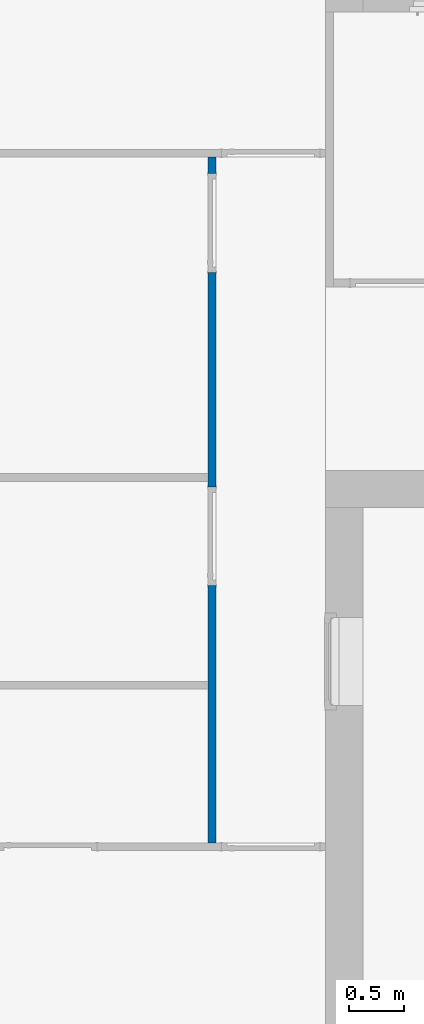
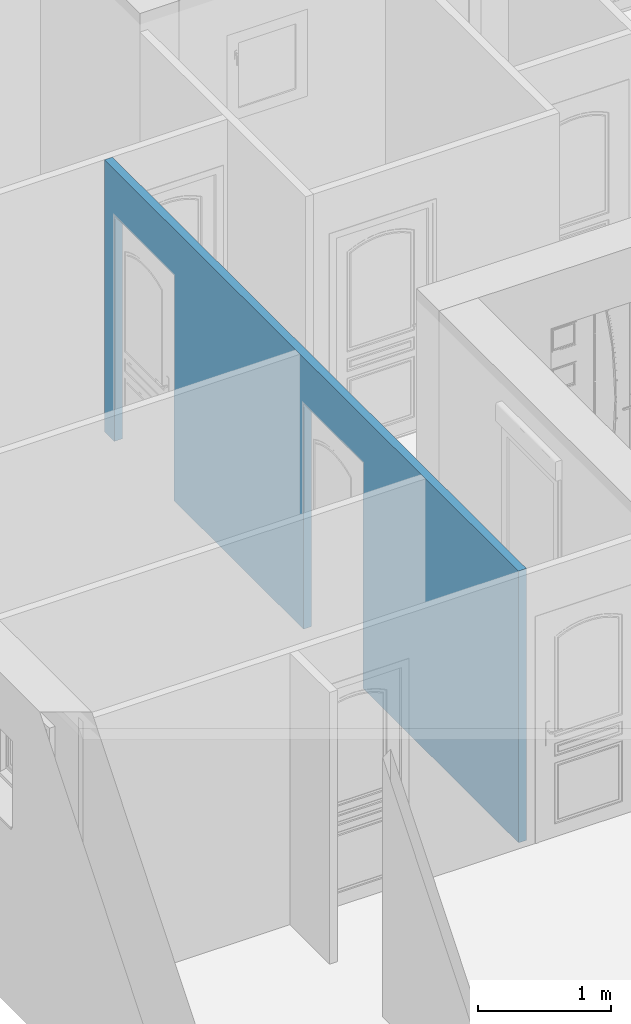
# One storey, part 10 of 23: 1 wall, 2 openings.
"""IFC2X3 building model written with IfcOpenShell, lengths in metres."""

from ifc_helpers import new_model, entity, si_unit, converted_unit, derived_unit, direction, frame, frame_2d, origin, place, context, subcontext, project, spatial, rectangle, extrude, material, layer, layer_set, layer_usage, type_object, element, save


model = new_model("IFC2X3")

# Units and contexts
model_context = context("Model", 3, precision=1e-05, world=origin(), true_north=direction((6.12303176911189e-17, 1.0)))
body_context = subcontext(model_context, "Body", "Model", "MODEL_VIEW")
ifc_project = project(units=[si_unit("LENGTHUNIT", "METRE"), si_unit("AREAUNIT", "SQUARE_METRE"), si_unit("VOLUMEUNIT", "CUBIC_METRE"), converted_unit("PLANEANGLEUNIT", "DEGREE", entity("IfcRatioMeasure", 0.0174532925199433), si_unit("PLANEANGLEUNIT", "RADIAN"), dimensions=[0, 0, 0, 0, 0, 0, 0]), si_unit("MASSUNIT", "GRAM", prefix="KILO"), derived_unit("MASSDENSITYUNIT", [(si_unit("MASSUNIT", "GRAM", prefix="KILO"), 1), (si_unit("LENGTHUNIT", "METRE"), -3)]), si_unit("TIMEUNIT", "SECOND"), si_unit("FREQUENCYUNIT", "HERTZ"), si_unit("THERMODYNAMICTEMPERATUREUNIT", "DEGREE_CELSIUS"), derived_unit("THERMALTRANSMITTANCEUNIT", [(si_unit("MASSUNIT", "GRAM", prefix="KILO"), 1), (si_unit("THERMODYNAMICTEMPERATUREUNIT", "KELVIN"), -1), (si_unit("TIMEUNIT", "SECOND"), -3)]), derived_unit("VOLUMETRICFLOWRATEUNIT", [(si_unit("LENGTHUNIT", "METRE"), 3), (si_unit("TIMEUNIT", "SECOND"), -1)]), si_unit("ELECTRICCURRENTUNIT", "AMPERE"), si_unit("ELECTRICVOLTAGEUNIT", "VOLT"), si_unit("POWERUNIT", "WATT"), si_unit("FORCEUNIT", "NEWTON", prefix="KILO"), si_unit("ILLUMINANCEUNIT", "LUX"), si_unit("LUMINOUSFLUXUNIT", "LUMEN"), si_unit("LUMINOUSINTENSITYUNIT", "CANDELA"), derived_unit("USERDEFINED", [(si_unit("MASSUNIT", "GRAM", prefix="KILO"), -1), (si_unit("LENGTHUNIT", "METRE"), -2), (si_unit("TIMEUNIT", "SECOND"), 3), (si_unit("LUMINOUSFLUXUNIT", "LUMEN"), 1)]), derived_unit("LINEARVELOCITYUNIT", [(si_unit("LENGTHUNIT", "METRE"), 1), (si_unit("TIMEUNIT", "SECOND"), -1)]), si_unit("PRESSUREUNIT", "PASCAL"), derived_unit("USERDEFINED", [(si_unit("LENGTHUNIT", "METRE"), -2), (si_unit("MASSUNIT", "GRAM", prefix="KILO"), 1), (si_unit("TIMEUNIT", "SECOND"), -2)])], contexts=[model_context])

# Site, building, storey
site_placement = place(None, origin())
site = spatial("IfcSite", under=ifc_project, at=site_placement, Name="Default", CompositionType="ELEMENT")
building_placement = place(site_placement, origin())
building = spatial("IfcBuilding", under=site, at=building_placement, CompositionType="ELEMENT")
storey_placement = place(building_placement, origin())
storey = spatial("IfcBuildingStorey", under=building, at=storey_placement, Name="2 - Rez de Chaussée", CompositionType="ELEMENT", Elevation=-1.94916083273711e-14)

# Wall, openings
ifc_material = material(Name="Mur par défaut")
ifc_layer = layer(ifc_material, 0.07)
ifc_layer_set = layer_set([ifc_layer], Name="Mur de base:Cloison distributive Placostil® 72/48 - 1x Placoplatre® BA 13 avec M 48 - EI30 - 33dB - max 3,45m")
ifc_layer_usage = layer_usage(ifc_layer_set, "AXIS2", "NEGATIVE", 0.035)
wall_type = type_object("IfcWallType", Name="Mur de base:Cloison distributive Placostil® 72/48 - 1x Placoplatre® BA 13 avec M 48 - EI30 - 33dB - max 3,45m", PredefinedType="STANDARD", material=ifc_layer_set)
wall_placement = place(storey_placement, frame((-5.73122246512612, -2.76194499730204, 0.0), z_axis=(0.0, 0.0, 1.0), x_axis=(0.0, 1.0, 0.0)))
wall = element("IfcWallStandardCase", 1, at=wall_placement, inside=storey, type_object=wall_type, material=ifc_layer_usage, Name="Mur de base:Cloison distributive Placostil® 72/48 - 1x Placoplatre® BA 13 avec M 48 - EI30 - 33dB - max 3,45m", ObjectType="Mur de base:Cloison distributive Placostil® 72/48 - 1x Placoplatre® BA 13 avec M 48 - EI30 - 33dB - max 3,45m", context=body_context, shape_type="SweptSolid", body=[
    extrude(rectangle(XDim=6.24, YDim=0.0699999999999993, at=frame_2d((3.12, -3.71230823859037e-16), x_axis=(-1.0, 0.0))), origin(), (0.0, 0.0, 1.0), 2.50000000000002),
])
opening_1_placement = place(wall_placement, frame((5.19000000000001, -0.0349999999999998, 0.0)))
element("IfcOpeningElement", 2, at=opening_1_placement, cuts=wall, Name="Int. Simple - moulures:PP Moulure cintrée (0.83 m x 2.04 m):1", ObjectType="Opening", context=body_context, shape_type="SweptSolid", body=[
    extrude(rectangle(XDim=2.075, YDim=0.9, at=frame_2d((1.0375, 0.45), x_axis=(1.0, 0.0))), frame((0.0, 0.0, 0.0), z_axis=(0.0, 1.0, 0.0), x_axis=(0.0, 0.0, 1.0)), (0.0, 0.0, 1.0), 0.07),
])
opening_2_placement = place(wall_placement, frame((2.34000000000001, -0.0349999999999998, 0.0)))
element("IfcOpeningElement", 3, at=opening_2_placement, cuts=wall, Name="Int. Simple - moulures:PP Moulure cintrée (0.83 m x 2.04 m):1", ObjectType="Opening", context=body_context, shape_type="SweptSolid", body=[
    extrude(rectangle(XDim=2.075, YDim=0.9, at=frame_2d((1.0375, 0.45), x_axis=(1.0, 0.0))), frame((0.0, 0.0, 0.0), z_axis=(0.0, 1.0, 0.0), x_axis=(0.0, 0.0, 1.0)), (0.0, 0.0, 1.0), 0.07),
])

save(model, "model.ifc")
